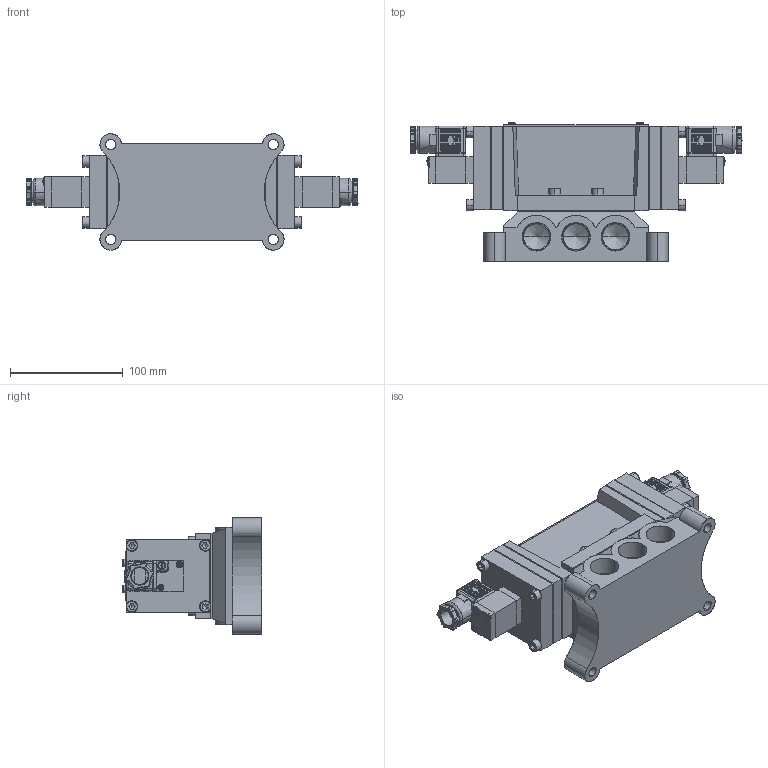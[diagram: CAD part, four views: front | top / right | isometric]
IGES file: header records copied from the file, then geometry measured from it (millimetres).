
Start section: SolidWorks IGES file using analytic representation for surfaces
Global section: file name: D:\Custom\3D繪製\PM\PM15\PMD3415#-06-#C#.IGS,1; native system: 5HSolidWorks 2014; preprocessor: SolidWorks 2014; author: Chieh_Lu; date: 151215.222131; units: millimetre
Bounding box: 294 x 123.55 x 103 mm (x, y, z)
Surface area: 271404.1 mm2 (no closed solid volume)
Topology: 0 solids, 0 shells, 1788 faces, 16435 edges, 16133 vertices
Faces by surface type: revolution 936, bspline 852
